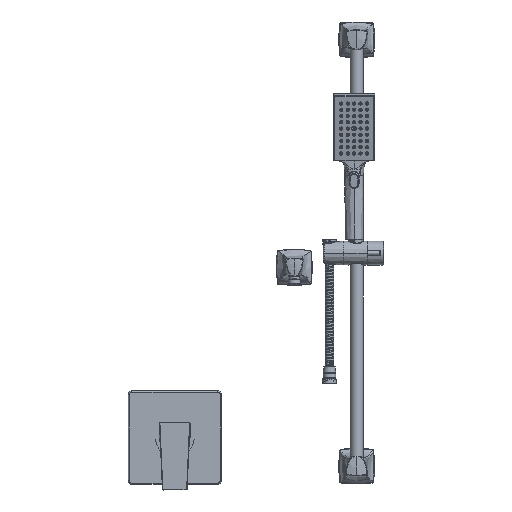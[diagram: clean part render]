
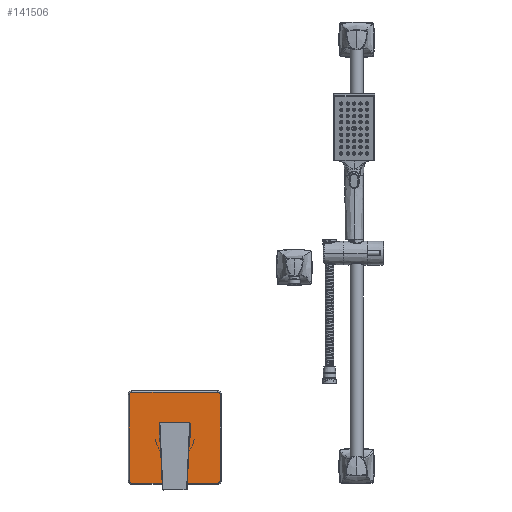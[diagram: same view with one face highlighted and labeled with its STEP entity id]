
A CAD part, top view. The second image highlights one B-rep face of the part: STEP entity #141506.
In plain terms, the highlighted planar face has unit normal (0, 0, 1).
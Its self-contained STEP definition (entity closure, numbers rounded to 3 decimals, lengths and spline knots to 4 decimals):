
#2421 = ORIENTED_EDGE ( 'NONE', *, *, #185123, .T. ) ;
#3539 = AXIS2_PLACEMENT_3D ( 'NONE', #186727, #33592, #92247 ) ;
#5672 = CIRCLE ( 'NONE', #179584, 1.0255 ) ;
#6148 = VERTEX_POINT ( 'NONE', #138547 ) ;
#6589 = CARTESIAN_POINT ( 'NONE',  ( 3.045, -2.875, 0.48 ) ) ;
#8877 = DIRECTION ( 'NONE',  ( 0., 0., 1. ) ) ;
#12514 = DIRECTION ( 'NONE',  ( 0., -1., 0. ) ) ;
#23451 = AXIS2_PLACEMENT_3D ( 'NONE', #128545, #97761, #50457 ) ;
#26309 = DIRECTION ( 'NONE',  ( 1., 0., 0. ) ) ;
#27917 = LINE ( 'NONE', #170677, #151530 ) ;
#29563 = DIRECTION ( 'NONE',  ( 1., 0., 0. ) ) ;
#33592 = DIRECTION ( 'NONE',  ( 0., 0., 1. ) ) ;
#37742 = AXIS2_PLACEMENT_3D ( 'NONE', #118807, #8877, #26309 ) ;
#38064 = CIRCLE ( 'NONE', #60956, 0.17 ) ;
#38478 = FACE_OUTER_BOUND ( 'NONE', #63828, .T. ) ;
#40861 = ORIENTED_EDGE ( 'NONE', *, *, #176252, .T. ) ;
#45872 = AXIS2_PLACEMENT_3D ( 'NONE', #139929, #189175, #111135 ) ;
#47104 = DIRECTION ( 'NONE',  ( 1., 0., 0. ) ) ;
#49505 = EDGE_CURVE ( 'NONE', #99532, #129010, #27917, .T. ) ;
#49773 = CARTESIAN_POINT ( 'NONE',  ( -2.875, -3.045, 0.48 ) ) ;
#50457 = DIRECTION ( 'NONE',  ( 1., 0., 0. ) ) ;
#50580 = EDGE_CURVE ( 'NONE', #134908, #99532, #121741, .T. ) ;
#53291 = EDGE_CURVE ( 'NONE', #166925, #197682, #184191, .T. ) ;
#53487 = LINE ( 'NONE', #150046, #89000 ) ;
#54938 = ORIENTED_EDGE ( 'NONE', *, *, #138269, .F. ) ;
#60956 = AXIS2_PLACEMENT_3D ( 'NONE', #105649, #108686, #29563 ) ;
#61540 = VERTEX_POINT ( 'NONE', #178320 ) ;
#63828 = EDGE_LOOP ( 'NONE', ( #110097, #191855, #173017, #40861, #2421, #81703, #181245, #156784 ) ) ;
#64337 = CARTESIAN_POINT ( 'NONE',  ( -2.875, -3.045, 0.48 ) ) ;
#64831 = CARTESIAN_POINT ( 'NONE',  ( 3.045, 2.875, 0.48 ) ) ;
#70321 = FACE_BOUND ( 'NONE', #153427, .T. ) ;
#71279 = DIRECTION ( 'NONE',  ( 0., 1., 0. ) ) ;
#81703 = ORIENTED_EDGE ( 'NONE', *, *, #96056, .T. ) ;
#83449 = CARTESIAN_POINT ( 'NONE',  ( -1.0255, 0., 0.48 ) ) ;
#85840 = VECTOR ( 'NONE', #71279, 39.3701 ) ;
#87310 = VERTEX_POINT ( 'NONE', #83449 ) ;
#89000 = VECTOR ( 'NONE', #101794, 39.3701 ) ;
#92247 = DIRECTION ( 'NONE',  ( 1., 0., 0. ) ) ;
#96056 = EDGE_CURVE ( 'NONE', #6148, #166925, #116537, .T. ) ;
#97761 = DIRECTION ( 'NONE',  ( 0., 0., 1. ) ) ;
#99532 = VERTEX_POINT ( 'NONE', #168083 ) ;
#100215 = CARTESIAN_POINT ( 'NONE',  ( -3.045, -2.875, 0.48 ) ) ;
#101794 = DIRECTION ( 'NONE',  ( -1., 0., 0. ) ) ;
#105649 = CARTESIAN_POINT ( 'NONE',  ( -2.875, -2.875, 0.48 ) ) ;
#108686 = DIRECTION ( 'NONE',  ( 0., 0., 1. ) ) ;
#110097 = ORIENTED_EDGE ( 'NONE', *, *, #50580, .T. ) ;
#110345 = ORIENTED_EDGE ( 'NONE', *, *, #153529, .F. ) ;
#111135 = DIRECTION ( 'NONE',  ( 1., 0., 0. ) ) ;
#111500 = CARTESIAN_POINT ( 'NONE',  ( 1.0255, 0., 0.48 ) ) ;
#111823 = DIRECTION ( 'NONE',  ( 0., 0., 1. ) ) ;
#112556 = PLANE ( 'NONE',  #189707 ) ;
#112655 = LINE ( 'NONE', #64337, #184851 ) ;
#116537 = LINE ( 'NONE', #6589, #85840 ) ;
#118807 = CARTESIAN_POINT ( 'NONE',  ( 2.875, -2.875, 0.48 ) ) ;
#121741 = CIRCLE ( 'NONE', #3539, 0.17 ) ;
#126149 = VERTEX_POINT ( 'NONE', #49773 ) ;
#128545 = CARTESIAN_POINT ( 'NONE',  ( 2.875, 2.875, 0.48 ) ) ;
#129010 = VERTEX_POINT ( 'NONE', #100215 ) ;
#130609 = EDGE_CURVE ( 'NONE', #129010, #126149, #38064, .T. ) ;
#131992 = DIRECTION ( 'NONE',  ( 0., 0., 1. ) ) ;
#134447 = CIRCLE ( 'NONE', #45872, 1.0255 ) ;
#134908 = VERTEX_POINT ( 'NONE', #184203 ) ;
#138269 = EDGE_CURVE ( 'NONE', #188438, #87310, #5672, .T. ) ;
#138547 = CARTESIAN_POINT ( 'NONE',  ( 3.045, -2.875, 0.48 ) ) ;
#139929 = CARTESIAN_POINT ( 'NONE',  ( 0., 0., 0.48 ) ) ;
#141506 = ADVANCED_FACE ( 'NONE', ( #70321, #38478 ), #112556, .T. ) ;
#142758 = CIRCLE ( 'NONE', #37742, 0.17 ) ;
#143950 = CARTESIAN_POINT ( 'NONE',  ( 2.875, 3.045, 0.48 ) ) ;
#147397 = CARTESIAN_POINT ( 'NONE',  ( -2.875, -2.875, 0.48 ) ) ;
#150046 = CARTESIAN_POINT ( 'NONE',  ( -2.875, 3.045, 0.48 ) ) ;
#151530 = VECTOR ( 'NONE', #12514, 39.3701 ) ;
#153427 = EDGE_LOOP ( 'NONE', ( #54938, #110345 ) ) ;
#153529 = EDGE_CURVE ( 'NONE', #87310, #188438, #134447, .T. ) ;
#156784 = ORIENTED_EDGE ( 'NONE', *, *, #159775, .T. ) ;
#159775 = EDGE_CURVE ( 'NONE', #197682, #134908, #53487, .T. ) ;
#166925 = VERTEX_POINT ( 'NONE', #64831 ) ;
#168083 = CARTESIAN_POINT ( 'NONE',  ( -3.045, 2.875, 0.48 ) ) ;
#170677 = CARTESIAN_POINT ( 'NONE',  ( -3.045, -2.875, 0.48 ) ) ;
#172441 = CARTESIAN_POINT ( 'NONE',  ( 0., 0., 0.48 ) ) ;
#173017 = ORIENTED_EDGE ( 'NONE', *, *, #130609, .T. ) ;
#174262 = DIRECTION ( 'NONE',  ( 1., 0., 0. ) ) ;
#176252 = EDGE_CURVE ( 'NONE', #126149, #61540, #112655, .T. ) ;
#178320 = CARTESIAN_POINT ( 'NONE',  ( 2.875, -3.045, 0.48 ) ) ;
#179584 = AXIS2_PLACEMENT_3D ( 'NONE', #172441, #111823, #47104 ) ;
#181245 = ORIENTED_EDGE ( 'NONE', *, *, #53291, .T. ) ;
#182256 = DIRECTION ( 'NONE',  ( 1., 0., 0. ) ) ;
#184191 = CIRCLE ( 'NONE', #23451, 0.17 ) ;
#184203 = CARTESIAN_POINT ( 'NONE',  ( -2.875, 3.045, 0.48 ) ) ;
#184851 = VECTOR ( 'NONE', #174262, 39.3701 ) ;
#185123 = EDGE_CURVE ( 'NONE', #61540, #6148, #142758, .T. ) ;
#186727 = CARTESIAN_POINT ( 'NONE',  ( -2.875, 2.875, 0.48 ) ) ;
#188438 = VERTEX_POINT ( 'NONE', #111500 ) ;
#189175 = DIRECTION ( 'NONE',  ( 0., 0., 1. ) ) ;
#189707 = AXIS2_PLACEMENT_3D ( 'NONE', #147397, #131992, #182256 ) ;
#191855 = ORIENTED_EDGE ( 'NONE', *, *, #49505, .T. ) ;
#197682 = VERTEX_POINT ( 'NONE', #143950 ) ;
